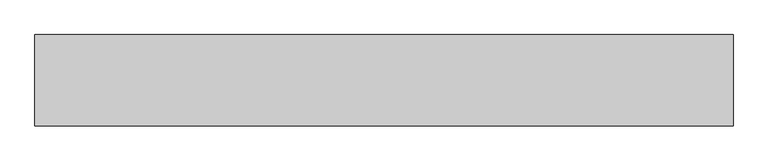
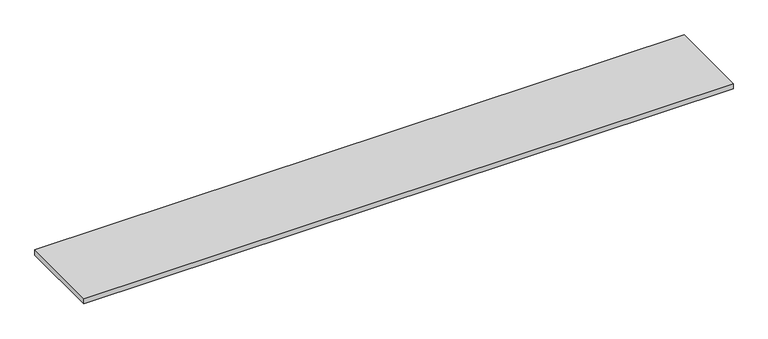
"""IFC4 building model written with IfcOpenShell, lengths in millimetres: furniture geometry, 台面 - 独立式 : 1220mm 深."""

from ifc_helpers import new_model, si_unit, frame, origin, place, context, project, spatial, polyline, outline, extrude, source, transform, mapped, element, save


def furniture_8facce06(model_context):
    return source(origin(), model_context, "Body", "SweptSolid", [
        extrude(outline(polyline([(3578.5797104, 25.4), (3578.5797104, -600.0), (-1200.4622951, -600.0), (-1200.4622951, 25.4), (3578.5797104, 25.4)])), frame((0.0, 0.0, 860.0), z_axis=(0.0, 0.0, 1.0), x_axis=(1.0, 0.0, 0.0)), (0.0, 0.0, 1.0), 40.0),
    ])


if __name__ == "__main__":
    model = new_model("IFC4")
    model_context = context("Model", 3, world=origin())
    ifc_project = project(units=[si_unit("LENGTHUNIT", "METRE", prefix="MILLI")], contexts=[model_context])
    site = spatial("IfcSite", under=ifc_project)
    building = spatial("IfcBuilding", under=site)
    placement = place(None, origin())
    furniture_shape = furniture_8facce06(model_context)
    element("IfcFurniture", 1, ObjectType="台面 - 独立式 : 1220mm 深", at=placement, inside=building, context=model_context, shape_type="MappedRepresentation", body=[
        mapped(furniture_shape, transform((0.0, 0.0, 0.0), x_axis=(1.0, 0.0, 0.0), y_axis=(0.0, 1.0, 0.0), z_axis=(0.0, 0.0, 1.0))),
    ])
    save(model, "model.ifc")
